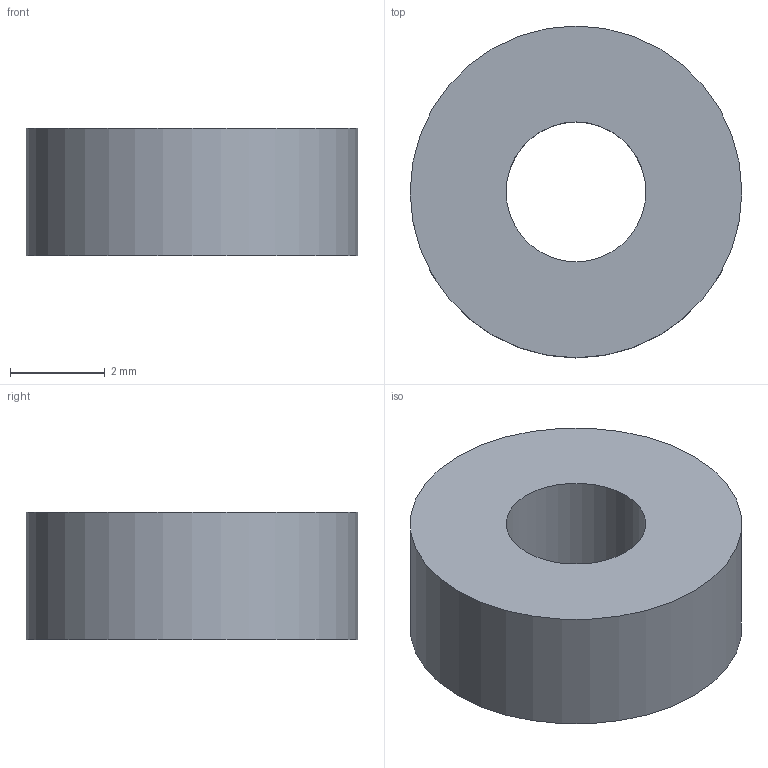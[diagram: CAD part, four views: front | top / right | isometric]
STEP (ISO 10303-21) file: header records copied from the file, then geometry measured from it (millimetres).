
FILE_DESCRIPTION(('Open CASCADE Model'),'2;1');
FILE_NAME('Open CASCADE Shape Model','2026-10-05T13:03:08',('Author'),( 'Open CASCADE'),'Open CASCADE STEP processor 7.9','Open CASCADE 7.9' ,'Unknown');
FILE_SCHEMA(('AUTOMOTIVE_DESIGN { 1 0 10303 214 1 1 1 1 }'));
Length unit declared in the file: millimetre
Products named in the file (1): Open CASCADE STEP translator 7.9 21
Bounding box: 7 x 7 x 2.7 mm (x, y, z)
Volume: 85.5 mm3; surface area: 147.7 mm2
Topology: 1 solids, 1 shells, 4 faces, 6 edges, 4 vertices
Faces by surface type: cylinder 2, plane 2
Full cylindrical faces by diameter (mm): 2.95 x1, 7 x1
Entity records: 186 total; most frequent: DIRECTION 32, CARTESIAN_POINT 27, ORIENTED_EDGE 12, PCURVE 12, DEFINITIONAL_REPRESENTATION 12, LINE 10, VECTOR 10, AXIS2_PLACEMENT_3D 9
